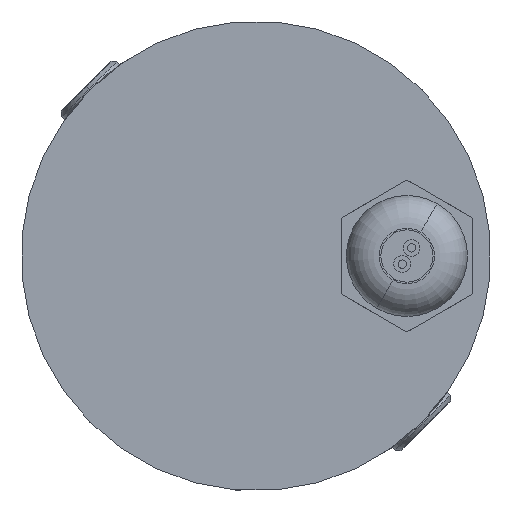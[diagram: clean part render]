
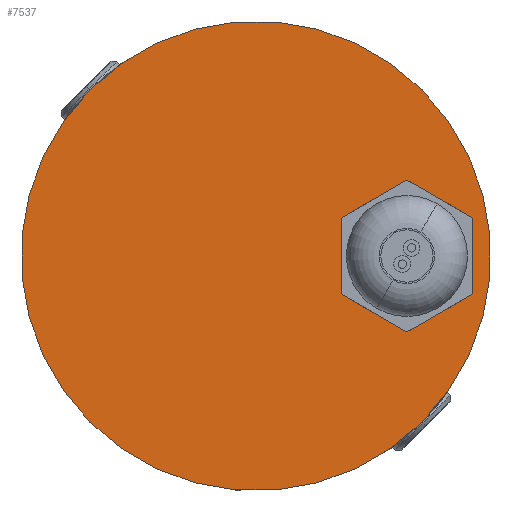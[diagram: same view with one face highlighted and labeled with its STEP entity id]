
A CAD part, left-side view. The second image highlights one B-rep face of the part: STEP entity #7537.
In plain terms, the highlighted planar face has unit normal (-1, 0, 0).
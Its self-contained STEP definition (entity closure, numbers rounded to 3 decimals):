
#395 = CARTESIAN_POINT ( 'NONE',  ( 96.986, 104.649, 156.308 ) ) ;
#628 = CARTESIAN_POINT ( 'NONE',  ( 96.986, 145.46, 178.759 ) ) ;
#1119 = CARTESIAN_POINT ( 'NONE',  ( 96.986, 106.894, 158.553 ) ) ;
#1248 = FACE_OUTER_BOUND ( 'NONE', #2322, .T. ) ;
#2156 = ORIENTED_EDGE ( 'NONE', *, *, #3270, .F. ) ;
#2318 = EDGE_CURVE ( 'NONE', #6420, #3162, #5535, .T. ) ;
#2322 = EDGE_LOOP ( 'NONE', ( #3213, #9339 ) ) ;
#2349 = PLANE ( 'NONE',  #4813 ) ;
#2379 = DIRECTION ( 'NONE',  ( 1., 0., 0. ) ) ;
#2430 = FACE_BOUND ( 'NONE', #7671, .T. ) ;
#2695 = CARTESIAN_POINT ( 'NONE',  ( 96.986, 125.254, 158.553 ) ) ;
#2822 = DIRECTION ( 'NONE',  ( -1., 0., 0. ) ) ;
#3162 = VERTEX_POINT ( 'NONE', #8371 ) ;
#3213 = ORIENTED_EDGE ( 'NONE', *, *, #2318, .F. ) ;
#3270 = EDGE_CURVE ( 'NONE', #9282, #4369, #3983, .T. ) ;
#3680 = ORIENTED_EDGE ( 'NONE', *, *, #4719, .F. ) ;
#3983 = CIRCLE ( 'NONE', #8840, 3.175 ) ;
#4232 = DIRECTION ( 'NONE',  ( 1., 0., 0. ) ) ;
#4369 = VERTEX_POINT ( 'NONE', #6501 ) ;
#4719 = EDGE_CURVE ( 'NONE', #4369, #9282, #7830, .T. ) ;
#4813 = AXIS2_PLACEMENT_3D ( 'NONE', #9070, #2379, #7592 ) ;
#5535 = CIRCLE ( 'NONE', #5571, 28.575 ) ;
#5571 = AXIS2_PLACEMENT_3D ( 'NONE', #8143, #4232, #9532 ) ;
#5829 = CARTESIAN_POINT ( 'NONE',  ( 96.986, 106.894, 158.553 ) ) ;
#6350 = DIRECTION ( 'NONE',  ( 0., -0.707, -0.707 ) ) ;
#6400 = EDGE_CURVE ( 'NONE', #3162, #6420, #8737, .T. ) ;
#6420 = VERTEX_POINT ( 'NONE', #628 ) ;
#6501 = CARTESIAN_POINT ( 'NONE',  ( 96.986, 109.14, 160.798 ) ) ;
#6688 = AXIS2_PLACEMENT_3D ( 'NONE', #2695, #8786, #9413 ) ;
#7537 = ADVANCED_FACE ( 'NONE', ( #2430, #1248 ), #2349, .F. ) ;
#7592 = DIRECTION ( 'NONE',  ( 0., -0.707, -0.707 ) ) ;
#7671 = EDGE_LOOP ( 'NONE', ( #2156, #3680 ) ) ;
#7830 = CIRCLE ( 'NONE', #8553, 3.175 ) ;
#7846 = DIRECTION ( 'NONE',  ( -1., 0., 0. ) ) ;
#8143 = CARTESIAN_POINT ( 'NONE',  ( 96.986, 125.254, 158.553 ) ) ;
#8371 = CARTESIAN_POINT ( 'NONE',  ( 96.986, 105.048, 138.348 ) ) ;
#8553 = AXIS2_PLACEMENT_3D ( 'NONE', #5829, #2822, #9470 ) ;
#8737 = CIRCLE ( 'NONE', #6688, 28.575 ) ;
#8786 = DIRECTION ( 'NONE',  ( 1., 0., 0. ) ) ;
#8840 = AXIS2_PLACEMENT_3D ( 'NONE', #1119, #7846, #6350 ) ;
#9070 = CARTESIAN_POINT ( 'NONE',  ( 96.986, 125.254, 158.553 ) ) ;
#9282 = VERTEX_POINT ( 'NONE', #395 ) ;
#9339 = ORIENTED_EDGE ( 'NONE', *, *, #6400, .F. ) ;
#9413 = DIRECTION ( 'NONE',  ( 0., -0.707, -0.707 ) ) ;
#9470 = DIRECTION ( 'NONE',  ( 0., -0.707, -0.707 ) ) ;
#9532 = DIRECTION ( 'NONE',  ( 0., -0.707, -0.707 ) ) ;
